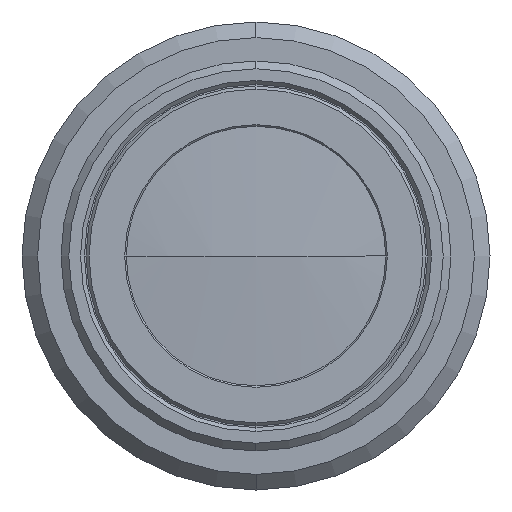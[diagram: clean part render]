
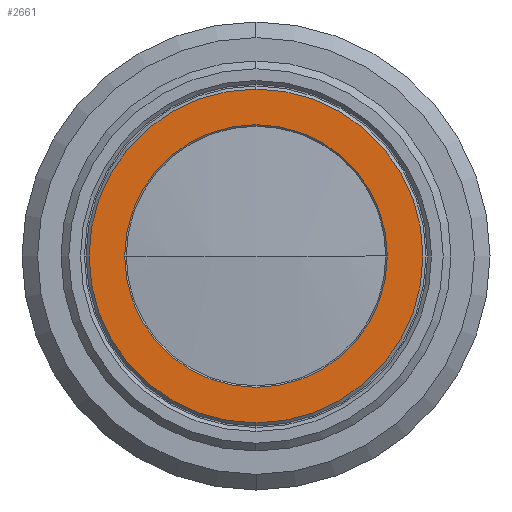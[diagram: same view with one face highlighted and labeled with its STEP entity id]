
A CAD part, left-side view. The second image highlights one B-rep face of the part: STEP entity #2661.
In plain terms, the highlighted planar face has unit normal (-1, 0, 0).
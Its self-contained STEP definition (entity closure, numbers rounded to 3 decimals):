
#159 = DIRECTION ( 'NONE',  ( 0., 0., -1. ) ) ;
#190 = ORIENTED_EDGE ( 'NONE', *, *, #2125, .F. ) ;
#201 = DIRECTION ( 'NONE',  ( 1., 0., 0. ) ) ;
#310 = VERTEX_POINT ( 'NONE', #2422 ) ;
#396 = AXIS2_PLACEMENT_3D ( 'NONE', #2240, #1008, #2455 ) ;
#650 = DIRECTION ( 'NONE',  ( 1., 0., 0. ) ) ;
#662 = AXIS2_PLACEMENT_3D ( 'NONE', #1681, #2306, #1071 ) ;
#785 = VERTEX_POINT ( 'NONE', #2376 ) ;
#1008 = DIRECTION ( 'NONE',  ( 1., 0., 0. ) ) ;
#1050 = EDGE_LOOP ( 'NONE', ( #2499, #1778 ) ) ;
#1071 = DIRECTION ( 'NONE',  ( 0., 0., 1. ) ) ;
#1169 = CARTESIAN_POINT ( 'NONE',  ( 1.974, 0., -10.7 ) ) ;
#1201 = EDGE_CURVE ( 'NONE', #785, #2305, #1765, .T. ) ;
#1268 = PLANE ( 'NONE',  #662 ) ;
#1373 = DIRECTION ( 'NONE',  ( 1., 0., 0. ) ) ;
#1417 = CARTESIAN_POINT ( 'NONE',  ( 1.974, 0., 0. ) ) ;
#1605 = CIRCLE ( 'NONE', #2414, 10.7 ) ;
#1628 = DIRECTION ( 'NONE',  ( 0., 0., -1. ) ) ;
#1681 = CARTESIAN_POINT ( 'NONE',  ( 1.974, 8.42, 0. ) ) ;
#1747 = ORIENTED_EDGE ( 'NONE', *, *, #2364, .F. ) ;
#1765 = CIRCLE ( 'NONE', #2116, 8.42 ) ;
#1778 = ORIENTED_EDGE ( 'NONE', *, *, #1201, .T. ) ;
#1859 = FACE_OUTER_BOUND ( 'NONE', #2333, .T. ) ;
#1872 = CARTESIAN_POINT ( 'NONE',  ( 1.974, 0., 0. ) ) ;
#1997 = CIRCLE ( 'NONE', #396, 8.42 ) ;
#2032 = EDGE_CURVE ( 'NONE', #2305, #785, #1997, .T. ) ;
#2043 = AXIS2_PLACEMENT_3D ( 'NONE', #1872, #650, #2546 ) ;
#2116 = AXIS2_PLACEMENT_3D ( 'NONE', #1417, #201, #1628 ) ;
#2125 = EDGE_CURVE ( 'NONE', #2373, #310, #2482, .T. ) ;
#2240 = CARTESIAN_POINT ( 'NONE',  ( 1.974, 0., 0. ) ) ;
#2281 = FACE_BOUND ( 'NONE', #1050, .T. ) ;
#2305 = VERTEX_POINT ( 'NONE', #2555 ) ;
#2306 = DIRECTION ( 'NONE',  ( -1., 0., 0. ) ) ;
#2333 = EDGE_LOOP ( 'NONE', ( #190, #1747 ) ) ;
#2364 = EDGE_CURVE ( 'NONE', #310, #2373, #1605, .T. ) ;
#2373 = VERTEX_POINT ( 'NONE', #1169 ) ;
#2376 = CARTESIAN_POINT ( 'NONE',  ( 1.974, 0., -8.42 ) ) ;
#2414 = AXIS2_PLACEMENT_3D ( 'NONE', #2616, #1373, #159 ) ;
#2422 = CARTESIAN_POINT ( 'NONE',  ( 1.974, 0., 10.7 ) ) ;
#2455 = DIRECTION ( 'NONE',  ( 0., 0., -1. ) ) ;
#2482 = CIRCLE ( 'NONE', #2043, 10.7 ) ;
#2499 = ORIENTED_EDGE ( 'NONE', *, *, #2032, .T. ) ;
#2546 = DIRECTION ( 'NONE',  ( 0., 0., -1. ) ) ;
#2555 = CARTESIAN_POINT ( 'NONE',  ( 1.974, 0., 8.42 ) ) ;
#2616 = CARTESIAN_POINT ( 'NONE',  ( 1.974, 0., 0. ) ) ;
#2661 = ADVANCED_FACE ( 'NONE', ( #2281, #1859 ), #1268, .T. ) ;
